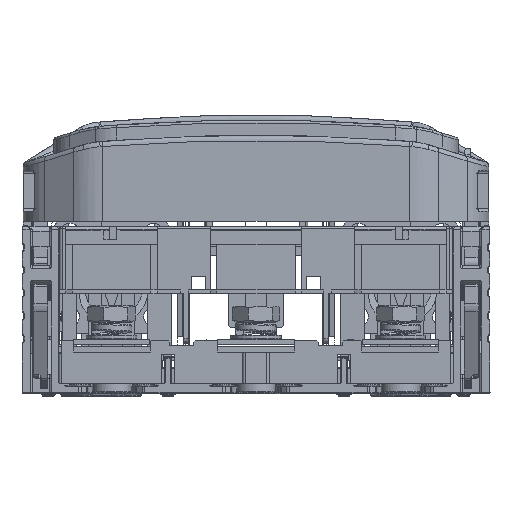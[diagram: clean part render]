
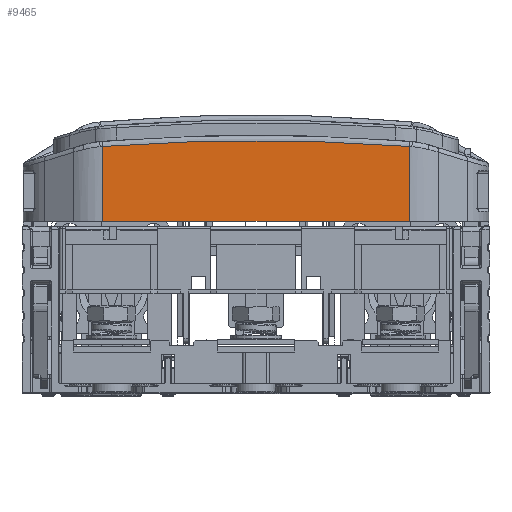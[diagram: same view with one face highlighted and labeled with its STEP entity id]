
A CAD part, left-side view. The second image highlights one B-rep face of the part: STEP entity #9465.
In plain terms, the highlighted planar face has unit normal (-1, 0, 0).
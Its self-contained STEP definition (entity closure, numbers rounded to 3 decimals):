
#2701=TRIMMED_CURVE($,#5950,(#97162),(#97163),.T.,.CARTESIAN.);
#5950=CIRCLE('',#73405,764.79);
#9465=ADVANCED_FACE('',(#12674),#71526,.T.);
#12674=FACE_OUTER_BOUND('',#15894,.T.);
#15894=EDGE_LOOP('',(#21658,#21659,#21660,#21661));
#21658=ORIENTED_EDGE('',*,*,#40857,.T.);
#21659=ORIENTED_EDGE('',*,*,#40856,.T.);
#21660=ORIENTED_EDGE('',*,*,#40853,.F.);
#21661=ORIENTED_EDGE('',*,*,#40855,.F.);
#40853=EDGE_CURVE('',#63247,#63245,#53610,.T.);
#40855=EDGE_CURVE('',#63248,#63247,#53611,.T.);
#40856=EDGE_CURVE('',#63249,#63245,#2701,.T.);
#40857=EDGE_CURVE('',#63248,#63249,#53612,.T.);
#53610=B_SPLINE_CURVE_WITH_KNOTS('',1,(#97154,#97155),.UNSPECIFIED.,.F.,
 .F.,(2,2),(0.,29.609),.UNSPECIFIED.);
#53611=B_SPLINE_CURVE_WITH_KNOTS('',1,(#97159,#97160),.UNSPECIFIED.,.F.,
 .F.,(2,2),(0.,120.85),.UNSPECIFIED.);
#53612=B_SPLINE_CURVE_WITH_KNOTS('',1,(#97164,#97165),.UNSPECIFIED.,.F.,
 .F.,(2,2),(0.,29.609),.UNSPECIFIED.);
#63245=VERTEX_POINT('',#93345);
#63247=VERTEX_POINT('',#93347);
#63248=VERTEX_POINT('',#93348);
#63249=VERTEX_POINT('',#93349);
#71526=PLANE('',#73053);
#73053=AXIS2_PLACEMENT_3D('',#91760,#78789,$);
#73405=AXIS2_PLACEMENT_3D($,#97161,#79387,#79388);
#78789=DIRECTION('',(-1.,0.,0.));
#79387=DIRECTION('',(-1.,0.,0.));
#79388=DIRECTION('',(0.,-0.079,0.997));
#91760=CARTESIAN_POINT('',(-4.939,-139.215,94.125));
#93345=CARTESIAN_POINT('',(-4.939,-139.215,91.734));
#93347=CARTESIAN_POINT('',(-4.939,-139.215,62.125));
#93348=CARTESIAN_POINT('',(-4.939,-260.064,62.125));
#93349=CARTESIAN_POINT('',(-4.939,-260.064,91.734));
#97154=CARTESIAN_POINT('',(-4.939,-139.215,62.125));
#97155=CARTESIAN_POINT('',(-4.939,-139.215,91.734));
#97159=CARTESIAN_POINT('',(-4.939,-260.064,62.125));
#97160=CARTESIAN_POINT('',(-4.939,-139.215,62.125));
#97161=CARTESIAN_POINT('',(-4.939,-199.64,-670.665));
#97162=CARTESIAN_POINT('',(-4.939,-260.064,91.734));
#97163=CARTESIAN_POINT('',(-4.939,-139.215,91.734));
#97164=CARTESIAN_POINT('',(-4.939,-260.064,62.125));
#97165=CARTESIAN_POINT('',(-4.939,-260.064,91.734));
